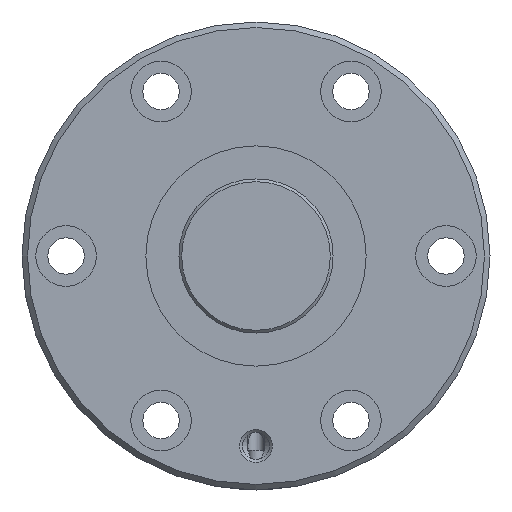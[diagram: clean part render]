
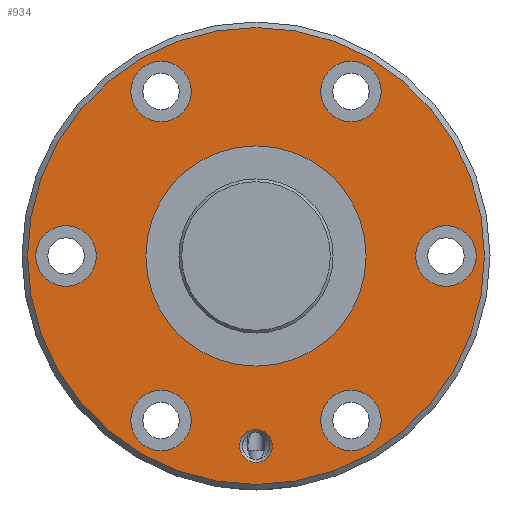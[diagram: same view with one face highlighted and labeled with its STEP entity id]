
A CAD part, left-side view. The second image highlights one B-rep face of the part: STEP entity #934.
In plain terms, the highlighted planar face has unit normal (-1, 0, 0).
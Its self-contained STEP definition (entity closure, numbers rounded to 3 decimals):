
#97=PLANE('',#1044);
#156=ORIENTED_EDGE('',*,*,#358,.T.);
#157=ORIENTED_EDGE('',*,*,#359,.T.);
#158=ORIENTED_EDGE('',*,*,#360,.T.);
#159=ORIENTED_EDGE('',*,*,#361,.T.);
#160=ORIENTED_EDGE('',*,*,#362,.T.);
#161=ORIENTED_EDGE('',*,*,#363,.T.);
#162=ORIENTED_EDGE('',*,*,#364,.T.);
#163=ORIENTED_EDGE('',*,*,#365,.T.);
#164=ORIENTED_EDGE('',*,*,#357,.F.);
#357=EDGE_CURVE('',#463,#463,#548,.T.);
#358=EDGE_CURVE('',#464,#464,#549,.T.);
#359=EDGE_CURVE('',#465,#465,#550,.F.);
#360=EDGE_CURVE('',#466,#466,#551,.T.);
#361=EDGE_CURVE('',#467,#467,#552,.T.);
#362=EDGE_CURVE('',#468,#468,#553,.T.);
#363=EDGE_CURVE('',#469,#469,#554,.T.);
#364=EDGE_CURVE('',#470,#470,#555,.T.);
#365=EDGE_CURVE('',#471,#471,#556,.T.);
#463=VERTEX_POINT('',#1564);
#464=VERTEX_POINT('',#1567);
#465=VERTEX_POINT('',#1569);
#466=VERTEX_POINT('',#1571);
#467=VERTEX_POINT('',#1573);
#468=VERTEX_POINT('',#1575);
#469=VERTEX_POINT('',#1577);
#470=VERTEX_POINT('',#1579);
#471=VERTEX_POINT('',#1581);
#548=CIRCLE('',#1043,41.5);
#549=CIRCLE('',#1045,20.);
#550=CIRCLE('',#1046,5.5);
#551=CIRCLE('',#1047,3.);
#552=CIRCLE('',#1048,5.5);
#553=CIRCLE('',#1049,5.5);
#554=CIRCLE('',#1050,5.5);
#555=CIRCLE('',#1051,5.5);
#556=CIRCLE('',#1052,5.5);
#631=EDGE_LOOP('',(#156));
#632=EDGE_LOOP('',(#157));
#633=EDGE_LOOP('',(#158));
#634=EDGE_LOOP('',(#159));
#635=EDGE_LOOP('',(#160));
#636=EDGE_LOOP('',(#161));
#637=EDGE_LOOP('',(#162));
#638=EDGE_LOOP('',(#163));
#639=EDGE_LOOP('',(#164));
#773=FACE_BOUND('',#631,.T.);
#774=FACE_BOUND('',#632,.T.);
#775=FACE_BOUND('',#633,.T.);
#776=FACE_BOUND('',#634,.T.);
#777=FACE_BOUND('',#635,.T.);
#778=FACE_BOUND('',#636,.T.);
#779=FACE_BOUND('',#637,.T.);
#780=FACE_BOUND('',#638,.T.);
#781=FACE_BOUND('',#639,.T.);
#934=ADVANCED_FACE('',(#773,#774,#775,#776,#777,#778,#779,#780,#781),#97,
 .T.);
#1043=AXIS2_PLACEMENT_3D('',#1563,#1217,#1218);
#1044=AXIS2_PLACEMENT_3D('',#1565,#1219,#1220);
#1045=AXIS2_PLACEMENT_3D('',#1566,#1221,#1222);
#1046=AXIS2_PLACEMENT_3D('',#1568,#1223,#1224);
#1047=AXIS2_PLACEMENT_3D('',#1570,#1225,#1226);
#1048=AXIS2_PLACEMENT_3D('',#1572,#1227,#1228);
#1049=AXIS2_PLACEMENT_3D('',#1574,#1229,#1230);
#1050=AXIS2_PLACEMENT_3D('',#1576,#1231,#1232);
#1051=AXIS2_PLACEMENT_3D('',#1578,#1233,#1234);
#1052=AXIS2_PLACEMENT_3D('',#1580,#1235,#1236);
#1217=DIRECTION('',(1.,0.,0.));
#1218=DIRECTION('',(0.,0.,-1.));
#1219=DIRECTION('',(-1.,0.,0.));
#1220=DIRECTION('',(0.,0.,1.));
#1221=DIRECTION('',(1.,0.,0.));
#1222=DIRECTION('',(0.,0.,-1.));
#1223=DIRECTION('',(-1.,0.,0.));
#1224=DIRECTION('',(0.,0.,1.));
#1225=DIRECTION('',(1.,0.,0.));
#1226=DIRECTION('',(0.,0.,-1.));
#1227=DIRECTION('',(1.,0.,0.));
#1228=DIRECTION('',(0.,0.,-1.));
#1229=DIRECTION('',(1.,0.,0.));
#1230=DIRECTION('',(0.,0.,-1.));
#1231=DIRECTION('',(1.,0.,0.));
#1232=DIRECTION('',(0.,0.,-1.));
#1233=DIRECTION('',(1.,0.,0.));
#1234=DIRECTION('',(0.,0.,-1.));
#1235=DIRECTION('',(1.,0.,0.));
#1236=DIRECTION('',(0.,0.,-1.));
#1563=CARTESIAN_POINT('',(0.,0.,0.));
#1564=CARTESIAN_POINT('',(0.,0.,-41.5));
#1565=CARTESIAN_POINT('',(0.,41.5,0.));
#1566=CARTESIAN_POINT('',(0.,0.,0.));
#1567=CARTESIAN_POINT('',(0.,0.,-20.));
#1568=CARTESIAN_POINT('',(0.,34.5,0.));
#1569=CARTESIAN_POINT('',(0.,34.5,5.5));
#1570=CARTESIAN_POINT('',(0.,0.,-34.5));
#1571=CARTESIAN_POINT('',(0.,0.,-37.5));
#1572=CARTESIAN_POINT('',(0.,-34.5,0.));
#1573=CARTESIAN_POINT('',(0.,-34.5,-5.5));
#1574=CARTESIAN_POINT('',(0.,17.25,29.878));
#1575=CARTESIAN_POINT('',(0.,17.25,24.378));
#1576=CARTESIAN_POINT('',(0.,-17.25,-29.878));
#1577=CARTESIAN_POINT('',(0.,-17.25,-35.378));
#1578=CARTESIAN_POINT('',(0.,-17.25,29.878));
#1579=CARTESIAN_POINT('',(0.,-17.25,24.378));
#1580=CARTESIAN_POINT('',(0.,17.25,-29.878));
#1581=CARTESIAN_POINT('',(0.,17.25,-35.378));
